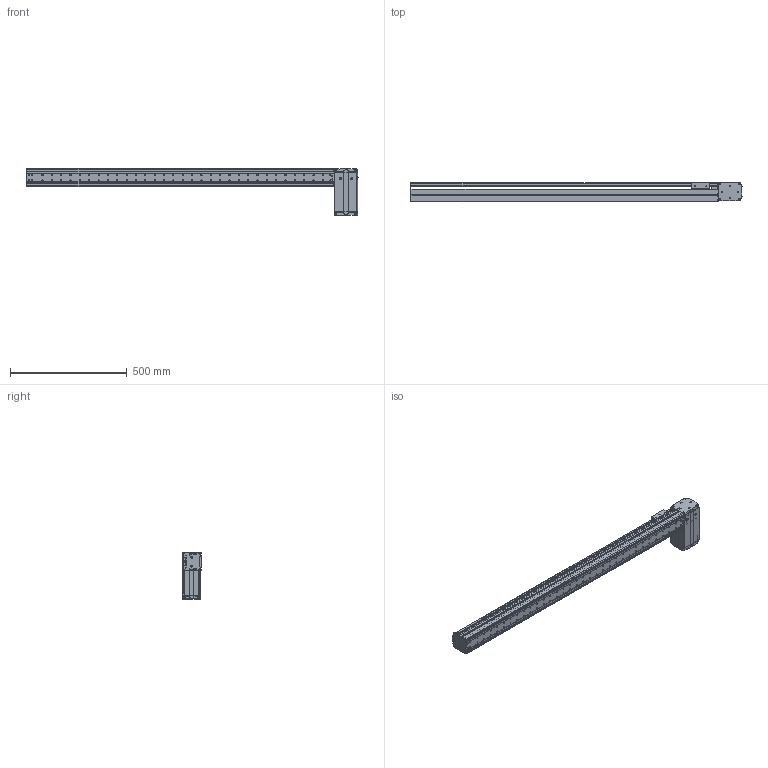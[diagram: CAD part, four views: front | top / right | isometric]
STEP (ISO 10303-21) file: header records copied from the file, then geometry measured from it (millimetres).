
FILE_DESCRIPTION((''),'2;1');
FILE_NAME('BE10_-BL-S_N-B5_IGS_PRT','2017-06-18T',(' '),(''),'PRO/ENGINEER BY PARAMETRIC TECHNOLOGY CORPORATION, 2015030','PRO/ENGINEER BY PARAMETRIC TECHNOLOGY CORPORATION, 2015030','');
FILE_SCHEMA(('CONFIG_CONTROL_DESIGN'));
Products named in the file (1): BE10_-BL-S_N-B5_IGS_PRT
Bounding box: 1420.8 x 85 x 200.22 mm (x, y, z)
Volume: 1992828.4 mm3; surface area: 1357175.1 mm2
Topology: 2 solids, 151 shells, 2163 faces, 5921 edges, 3915 vertices
Faces by surface type: plane 1049, cylinder 955, cone 103, sphere 28, torus 25, bspline 3
Entity records: 70585 total; most frequent: CARTESIAN_POINT 14452, DIRECTION 11905, ORIENTED_EDGE 11218, EDGE_CURVE 5867, AXIS2_PLACEMENT_3D 4275, VERTEX_POINT 3915, VECTOR 3355, LINE 3355
